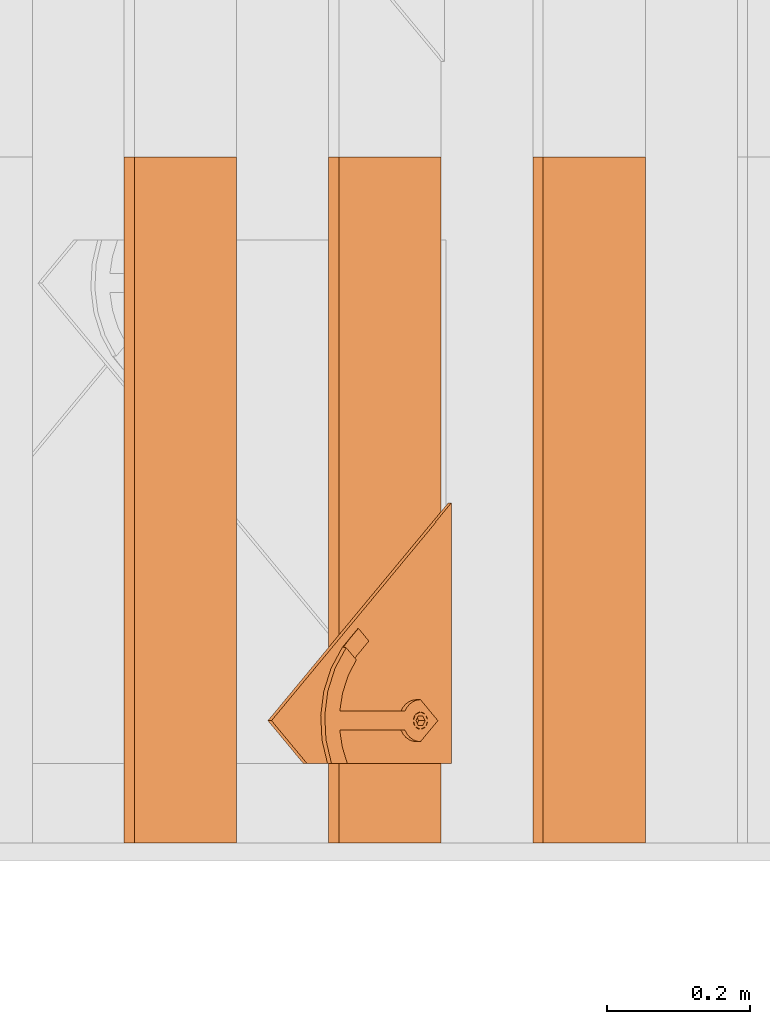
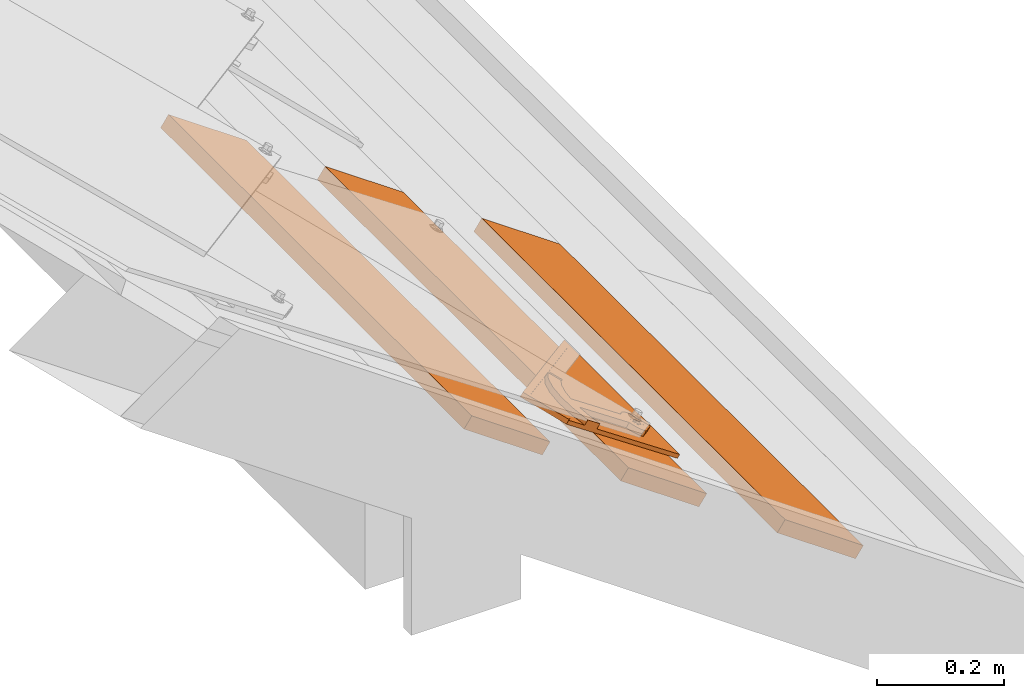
# One storey, part 126 of 151: 4 proxies, 1 element without a shape of its own.
"""IFC2X3 building model written with IfcOpenShell, lengths in millimetres."""

from ifc_helpers import new_model, entity, si_unit, converted_unit, derived_unit, direction, frame, frame_2d, origin, place, context, subcontext, project, spatial, rectangle, extrude, faceted_brep, source, transform, mapped, material, material_list, type_object, type_shapes, element, aggregate, save


model = new_model("IFC2X3")

# Units and contexts
model_context = context("Model", 3, precision=0.01, world=origin(), true_north=direction((6.12303176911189e-17, 1.0)))
body_context = subcontext(model_context, "Body", "Model", "MODEL_VIEW")
ifc_project = project(units=[si_unit("LENGTHUNIT", "METRE", prefix="MILLI"), si_unit("AREAUNIT", "SQUARE_METRE"), si_unit("VOLUMEUNIT", "CUBIC_METRE"), converted_unit("PLANEANGLEUNIT", "DEGREE", entity("IfcRatioMeasure", 0.0174532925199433), si_unit("PLANEANGLEUNIT", "RADIAN"), dimensions=[0, 0, 0, 0, 0, 0, 0]), si_unit("MASSUNIT", "GRAM", prefix="KILO"), derived_unit("MASSDENSITYUNIT", [(si_unit("MASSUNIT", "GRAM", prefix="KILO"), 1), (si_unit("LENGTHUNIT", "METRE"), -3)]), si_unit("TIMEUNIT", "SECOND"), si_unit("FREQUENCYUNIT", "HERTZ"), si_unit("THERMODYNAMICTEMPERATUREUNIT", "DEGREE_CELSIUS"), derived_unit("THERMALTRANSMITTANCEUNIT", [(si_unit("MASSUNIT", "GRAM", prefix="KILO"), 1), (si_unit("THERMODYNAMICTEMPERATUREUNIT", "KELVIN"), -1), (si_unit("TIMEUNIT", "SECOND"), -3)]), derived_unit("VOLUMETRICFLOWRATEUNIT", [(si_unit("LENGTHUNIT", "METRE"), 3), (si_unit("TIMEUNIT", "SECOND"), -1)]), si_unit("ELECTRICCURRENTUNIT", "AMPERE"), si_unit("ELECTRICVOLTAGEUNIT", "VOLT"), si_unit("POWERUNIT", "WATT"), si_unit("FORCEUNIT", "NEWTON", prefix="KILO"), si_unit("ILLUMINANCEUNIT", "LUX"), si_unit("LUMINOUSFLUXUNIT", "LUMEN"), si_unit("LUMINOUSINTENSITYUNIT", "CANDELA"), derived_unit("USERDEFINED", [(si_unit("MASSUNIT", "GRAM", prefix="KILO"), -1), (si_unit("LENGTHUNIT", "METRE"), -2), (si_unit("TIMEUNIT", "SECOND"), 3), (si_unit("LUMINOUSFLUXUNIT", "LUMEN"), 1)]), derived_unit("LINEARVELOCITYUNIT", [(si_unit("LENGTHUNIT", "METRE"), 1), (si_unit("TIMEUNIT", "SECOND"), -1)]), si_unit("PRESSUREUNIT", "PASCAL"), derived_unit("USERDEFINED", [(si_unit("LENGTHUNIT", "METRE"), -2), (si_unit("MASSUNIT", "GRAM", prefix="KILO"), 1), (si_unit("TIMEUNIT", "SECOND"), -2)])], contexts=[model_context])

# Site, building, storey
site_placement = place(None, origin())
site = spatial("IfcSite", under=ifc_project, at=site_placement, Name="Default", CompositionType="ELEMENT")
building_placement = place(site_placement, origin())
building = spatial("IfcBuilding", under=site, at=building_placement, CompositionType="ELEMENT")
storey_placement = place(building_placement, origin())
storey = spatial("IfcBuildingStorey", under=building, at=storey_placement, Name="Level 1", CompositionType="ELEMENT", Elevation=0.0)

# Assembly, proxies
assembly_placement = place(storey_placement, origin())
assembly = element("IfcElementAssembly", 1, at=assembly_placement, inside=storey, Name="Structural Framing Assembly:Roof Construction Assembly", ObjectType="Structural Framing Assembly:Roof Construction Assembly", AssemblyPlace="NOTDEFINED", PredefinedType="USERDEFINED")
ifc_material_1 = material(Name="Wood - Generic - Wood For Showcase")
building_element_proxy_type_1 = type_object("IfcBuildingElementProxyType", Name="Structural Framing 15", PredefinedType="NOTDEFINED", material=ifc_material_1)
shared_shape_1 = source(origin(), body_context, "Body", "SweptSolid", [
    extrude(rectangle(XDim=24.9999999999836, YDim=174.344679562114, at=frame_2d((3.79252185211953e-13, 7.105427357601e-14), x_axis=(1.0, 0.0))), frame((1285.3560130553, 2967.09519417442, 2760.23940055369), z_axis=(0.0, 1.0, 0.0), x_axis=(0.573576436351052, 0.0, 0.819152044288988)), (0.0, 0.0, 1.0), 958.455607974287),
])
type_shapes(building_element_proxy_type_1, [shared_shape_1])
proxy_1_placement = place(assembly_placement, frame((2913.78388459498, -9670.0, -2000.0)))
proxy_1 = element("IfcBuildingElementProxy", 2, at=proxy_1_placement, type_object=building_element_proxy_type_1, material=ifc_material_1, Name="Structural Framing 259:Structural Framing 15", ObjectType="Structural Framing 259:Structural Framing 15", context=body_context, shape_type="MappedRepresentation", body=[
    mapped(shared_shape_1, transform((0.0, 0.0, 0.0), scale=1.0)),
])
building_element_proxy_type_2 = type_object("IfcBuildingElementProxyType", Name="Structural Framing 15", PredefinedType="NOTDEFINED", material=ifc_material_1)
shared_shape_2 = source(origin(), body_context, "Body", "SweptSolid", [
    extrude(rectangle(XDim=24.9999999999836, YDim=174.344679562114, at=frame_2d((3.79252185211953e-13, 7.105427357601e-14), x_axis=(1.0, 0.0))), frame((1285.3560130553, 2967.09519417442, 2760.23940055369), z_axis=(0.0, 1.0, 0.0), x_axis=(0.573576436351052, 0.0, 0.819152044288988)), (0.0, 0.0, 1.0), 958.455607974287),
])
type_shapes(building_element_proxy_type_2, [shared_shape_2])
proxy_2_placement = place(assembly_placement, frame((3199.41348594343, -9670.0, -2200.0)))
proxy_2 = element("IfcBuildingElementProxy", 3, at=proxy_2_placement, type_object=building_element_proxy_type_2, material=ifc_material_1, Name="Structural Framing 269:Structural Framing 15", ObjectType="Structural Framing 269:Structural Framing 15", context=body_context, shape_type="MappedRepresentation", body=[
    mapped(shared_shape_2, transform((0.0, 0.0, 0.0), scale=1.0)),
])
building_element_proxy_type_3 = type_object("IfcBuildingElementProxyType", Name="Structural Framing 15", PredefinedType="NOTDEFINED", material=ifc_material_1)
shared_shape_3 = source(origin(), body_context, "Body", "SweptSolid", [
    extrude(rectangle(XDim=24.9999999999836, YDim=174.344679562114, at=frame_2d((3.79252185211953e-13, 7.105427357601e-14), x_axis=(1.0, 0.0))), frame((1285.3560130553, 2967.09519417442, 2760.23940055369), z_axis=(0.0, 1.0, 0.0), x_axis=(0.573576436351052, 0.0, 0.819152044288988)), (0.0, 0.0, 1.0), 958.455607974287),
])
type_shapes(building_element_proxy_type_3, [shared_shape_3])
proxy_3_placement = place(assembly_placement, frame((3485.04308729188, -9670.0, -2400.0)))
proxy_3 = element("IfcBuildingElementProxy", 4, at=proxy_3_placement, type_object=building_element_proxy_type_3, material=ifc_material_1, Name="Structural Framing 279:Structural Framing 15", ObjectType="Structural Framing 279:Structural Framing 15", context=body_context, shape_type="MappedRepresentation", body=[
    mapped(shared_shape_3, transform((0.0, 0.0, 0.0), scale=1.0)),
])
aggregate(assembly, [proxy_1, proxy_2, proxy_3])

# Proxy
ifc_material_2 = material(Name="Rubber - Sunstyle - Black")
ifc_material_3 = material(Name="Glass - Sunstyle - Tainted Black")
ifc_material_list_1 = material_list([ifc_material_2, ifc_material_3])
ifc_material_list_2 = material_list([ifc_material_2, ifc_material_3])
building_element_proxy_type_4 = type_object("IfcBuildingElementProxyType", Name="Corner Bottom Small Left - Black", PredefinedType="NOTDEFINED", material=ifc_material_list_2)
shared_shape_4 = source(origin(), body_context, "Body", "Brep", [
    faceted_brep([(330.847757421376, 18.4932261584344, 12.2894055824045), (339.332443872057, 26.9779126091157, 12.1473081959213), (339.332443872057, 27.0030303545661, 13.6470978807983), (330.847757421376, 18.5183439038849, 13.7891952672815), (61.6993486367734, 287.566165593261, 7.7831033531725), (10.0799586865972, 235.961249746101, 8.64735729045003), (1.59527223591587, 244.445936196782, 8.50525990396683), (61.6993486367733, 304.533159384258, 7.49894842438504), (61.6993486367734, 304.558277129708, 8.9987381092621), (1.59527223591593, 244.471053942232, 10.0050495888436), (10.0799586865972, 235.986367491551, 10.147146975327), (61.6993486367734, 287.591283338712, 9.2828930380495)], [[[0, 1, 2, 3]], [[1, 0, 4, 5, 6, 7]], [[2, 1, 7, 8]], [[3, 2, 8, 9, 10, 11]], [[0, 3, 11, 4]], [[5, 10, 9, 6]], [[8, 7, 6, 9]], [[4, 11, 10, 5]]]),
    faceted_brep([(61.6990261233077, 46.946835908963, 21.8142807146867), (61.6990261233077, 51.4462045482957, 21.7389274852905), (53.0953219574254, 50.5101071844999, 21.7546047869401), (70.3027302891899, 50.5101071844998, 21.7546047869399), (68.3392547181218, 55.2794047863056, 21.6747309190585), (73.8665012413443, 59.1126050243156, 21.6105343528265), (68.3392547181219, 62.9458052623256, 21.5463377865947), (70.30273028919, 67.7151028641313, 21.4664639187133), (61.6990261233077, 66.7790055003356, 21.4821412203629), (61.6990261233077, 71.2783741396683, 21.4067879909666), (53.0953219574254, 67.7151028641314, 21.4664639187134), (55.0587975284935, 62.9458052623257, 21.5463377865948), (49.5315510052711, 59.1126050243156, 21.6105343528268), (55.0587975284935, 55.2794047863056, 21.6747309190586), (55.0587978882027, 62.6778824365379, 5.54858115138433), (61.6990261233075, 66.5110824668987, 5.48438458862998), (55.0587978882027, 55.0114823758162, 5.6769742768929), (61.6990261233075, 51.1782823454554, 5.74117083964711), (68.3392543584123, 55.0114823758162, 5.67697427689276), (68.3392543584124, 62.6778824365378, 5.5485811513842), (53.0953219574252, 50.2421845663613, 5.75684814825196), (61.6990261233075, 46.6789132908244, 5.81652407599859), (49.5315510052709, 58.844682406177, 5.61277771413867), (53.0953219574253, 67.4471802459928, 5.4687072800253), (61.6990261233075, 71.0104515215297, 5.4090313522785), (70.3027302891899, 67.4471802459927, 5.46870728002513), (73.8665012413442, 58.844682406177, 5.61277771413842), (70.3027302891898, 50.2421845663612, 5.75684814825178)], [[[0, 1, 2]], [[1, 0, 3]], [[3, 4, 1]], [[4, 3, 5]], [[6, 4, 5]], [[5, 7, 6]], [[7, 8, 6]], [[8, 7, 9]], [[8, 9, 10]], [[10, 11, 8]], [[12, 11, 10]], [[2, 13, 12]], [[12, 13, 11]], [[13, 2, 1]], [[8, 11, 14, 15]], [[11, 13, 16, 14]], [[13, 1, 17, 16]], [[1, 4, 18, 17]], [[4, 6, 19, 18]], [[6, 8, 15, 19]], [[20, 17, 21]], [[17, 20, 16]], [[22, 16, 20]], [[14, 16, 22]], [[23, 14, 22]], [[15, 14, 23]], [[23, 24, 15]], [[24, 25, 15]], [[19, 15, 25]], [[19, 25, 26]], [[26, 18, 19]], [[26, 27, 18]], [[17, 18, 27]], [[27, 21, 17]], [[24, 23, 10, 9]], [[10, 23, 22, 12]], [[20, 21, 0, 2]], [[20, 2, 12, 22]], [[21, 27, 3, 0]], [[3, 27, 26, 5]], [[25, 24, 9, 7]], [[25, 7, 5, 26]]]),
    faceted_brep([(1.59527223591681, 244.445936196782, 8.50525990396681), (58.5931975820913, 70.7020897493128, 11.4150370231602), (61.6990261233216, 71.1109225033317, 11.4081900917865), (55.6990261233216, 69.5034527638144, 11.4351112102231), (64.8048546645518, 70.7020897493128, 11.4150370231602), (53.213744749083, 67.596696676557, 11.4670446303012), (51.3067212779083, 65.1117637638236, 11.5086610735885), (1.5952722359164, 0.125588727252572, 12.5970178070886), (67.6990261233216, 69.5034527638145, 11.4351112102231), (61.6993486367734, 304.533159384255, 7.49894842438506), (50.1079162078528, 62.2179980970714, 11.5571244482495), (49.6990261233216, 59.1126050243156, 11.6091320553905), (50.1079162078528, 56.0072119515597, 11.6611396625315), (51.3067212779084, 53.1134462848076, 11.7096030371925), (53.2137447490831, 50.6285133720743, 11.7512194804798), (55.6990261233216, 48.7217572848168, 11.7831529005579), (58.5931975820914, 47.5231202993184, 11.8032270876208), (61.6990261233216, 47.1142875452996, 11.8100740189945), (64.8048546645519, 47.5231202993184, 11.8032270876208), (67.6990261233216, 48.7217572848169, 11.7831529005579), (366.192299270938, 0.125588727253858, 12.5970178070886), (72.0913309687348, 65.1117637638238, 11.5086610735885), (73.2901360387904, 62.2179980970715, 11.5571244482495), (73.6990261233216, 59.1126050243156, 11.6091320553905), (70.1843074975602, 50.6285133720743, 11.7512194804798), (72.0913309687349, 53.1134462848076, 11.7096030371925), (73.2901360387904, 56.0072119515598, 11.6611396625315), (70.1843074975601, 67.596696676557, 11.4670446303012), (1.5952722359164, 0.0, 5.09806938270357), (55.6990261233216, 48.5961685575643, 4.2842044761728), (58.5931975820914, 47.3975315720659, 4.30427866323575), (53.2137447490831, 50.5029246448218, 4.25227105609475), (61.6990261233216, 46.9886988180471, 4.3111255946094), (51.3067212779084, 52.9878575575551, 4.21065461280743), (50.1079162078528, 55.8816232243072, 4.16219123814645), (49.6990261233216, 58.9870162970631, 4.11018363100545), (50.1079162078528, 62.0924093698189, 4.05817602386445), (64.8048546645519, 47.3975315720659, 4.30427866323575), (67.6990261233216, 48.5961685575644, 4.2842044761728), (366.192299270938, 0.0, 5.09806938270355), (51.3067212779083, 64.9861750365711, 4.00971264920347), (1.59527223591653, 244.320347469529, 1.00631147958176), (53.213744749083, 67.4711079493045, 3.96809620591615), (55.6990261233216, 69.3778640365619, 3.93616278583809), (58.5931975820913, 70.5765010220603, 3.91608859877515), (61.6990261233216, 70.9853337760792, 3.90924166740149), (64.8048546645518, 70.5765010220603, 3.91608859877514), (67.6990261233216, 69.377864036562, 3.93616278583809), (61.6993486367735, 304.407570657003, 0.0), (72.0913309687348, 64.9861750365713, 4.00971264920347), (70.1843074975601, 67.4711079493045, 3.96809620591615), (70.1843074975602, 50.5029246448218, 4.25227105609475), (72.0913309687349, 52.9878575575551, 4.21065461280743), (73.2901360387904, 55.8816232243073, 4.16219123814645), (73.6990261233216, 58.9870162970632, 4.11018363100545), (73.2901360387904, 62.092409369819, 4.05817602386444)], [[[0, 1, 2]], [[1, 0, 3]], [[0, 2, 4]], [[5, 3, 0]], [[6, 5, 0]], [[6, 0, 7]], [[8, 0, 4]], [[0, 8, 9]], [[7, 10, 6]], [[11, 10, 7]], [[12, 11, 7]], [[13, 12, 7]], [[7, 14, 13]], [[14, 7, 15]], [[16, 15, 7]], [[7, 17, 16]], [[17, 7, 18]], [[19, 18, 7]], [[20, 19, 7]], [[9, 21, 20]], [[20, 21, 22]], [[20, 22, 23]], [[19, 20, 24]], [[25, 24, 20]], [[26, 25, 20]], [[26, 20, 23]], [[9, 8, 27]], [[27, 21, 9]], [[28, 29, 30]], [[29, 28, 31]], [[28, 30, 32]], [[33, 31, 28]], [[34, 33, 28]], [[35, 34, 28]], [[28, 36, 35]], [[37, 28, 32]], [[37, 38, 28]], [[28, 38, 39]], [[36, 28, 40]], [[28, 41, 40]], [[42, 40, 41]], [[41, 43, 42]], [[43, 41, 44]], [[45, 44, 41]], [[41, 46, 45]], [[41, 47, 46]], [[47, 41, 48]], [[49, 48, 39]], [[50, 47, 48]], [[48, 49, 50]], [[38, 51, 39]], [[51, 52, 39]], [[52, 53, 39]], [[39, 53, 54]], [[55, 39, 54]], [[49, 39, 55]], [[11, 35, 36, 10]], [[10, 36, 40, 6]], [[3, 5, 42, 43]], [[40, 42, 5, 6]], [[1, 3, 43, 44]], [[45, 2, 1, 44]], [[4, 46, 47, 8]], [[8, 47, 50, 27]], [[22, 21, 49, 55]], [[50, 49, 21, 27]], [[23, 22, 55, 54]], [[4, 2, 45, 46]], [[23, 54, 53, 26]], [[26, 53, 52, 25]], [[19, 24, 51, 38]], [[52, 51, 24, 25]], [[18, 19, 38, 37]], [[32, 17, 18, 37]], [[16, 30, 29, 15]], [[15, 29, 31, 14]], [[12, 13, 33, 34]], [[31, 33, 13, 14]], [[11, 12, 34, 35]], [[16, 17, 32, 30]], [[0, 9, 48, 41]], [[7, 0, 41, 28]], [[20, 7, 28, 39]], [[9, 20, 39, 48]]]),
    faceted_brep([(1.59527223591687, 209.239382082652, 19.0962843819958), (1.59527223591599, 182.513149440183, 19.5438822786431), (24.4390403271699, 190.969673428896, 19.4022565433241), (34.6448586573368, 218.551914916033, 18.9403226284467), (48.3990261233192, 195.36105911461, 19.3287117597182), (68.9162632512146, 220.671424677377, 18.9048261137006), (74.999026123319, 195.361059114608, 19.3287117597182), (74.99902612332, 85.4841763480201, 21.1688761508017), (48.3990261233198, 85.4841763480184, 21.1688761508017), (61.6990261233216, 71.2783741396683, 21.4067879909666), (58.5931975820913, 70.8695413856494, 21.4136349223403), (55.6990261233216, 69.670904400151, 21.4337091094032), (42.9949199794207, 81.9461281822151, 21.2281296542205), (53.213744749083, 67.7641483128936, 21.4656425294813), (38.4943757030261, 77.3131226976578, 21.3057209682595), (51.3067212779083, 65.2792154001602, 21.5072589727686), (35.1148065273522, 71.8089720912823, 21.397901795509), (50.1079162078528, 62.385449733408, 21.5557223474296), (33.0194733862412, 65.6995720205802, 21.5002190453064), (49.6990261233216, 59.2800566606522, 21.6077299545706), (32.3095980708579, 59.2800566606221, 21.6077299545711), (50.1079162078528, 56.1746635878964, 21.6597375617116), (51.3067212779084, 53.2808979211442, 21.7082009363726), (53.2137447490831, 50.7959650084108, 21.7498173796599), (61.6990261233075, 29.8947493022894, 22.0998607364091), (55.6990261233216, 48.8892089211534, 21.7817507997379), (58.5931975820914, 47.690571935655, 21.8018249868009), (61.6990261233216, 47.2817391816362, 21.8086719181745), (64.8048546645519, 47.690571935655, 21.8018249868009), (67.6990261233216, 48.8892089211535, 21.7817507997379), (70.1843074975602, 50.7959650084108, 21.7498173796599), (91.0884541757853, 59.2800566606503, 21.6077299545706), (72.0913309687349, 53.2808979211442, 21.7082009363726), (73.2901360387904, 56.1746635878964, 21.6597375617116), (73.6990261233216, 59.2800566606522, 21.6077299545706), (90.3785788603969, 65.699572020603, 21.500219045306), (73.2901360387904, 62.3854497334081, 21.5557223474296), (88.2832457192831, 71.8089720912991, 21.3979017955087), (72.0913309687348, 65.2792154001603, 21.5072589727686), (84.9036765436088, 77.3131226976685, 21.3057209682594), (70.1843074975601, 67.7641483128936, 21.4656425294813), (80.4031322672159, 81.9461281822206, 21.2281296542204), (67.6990261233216, 69.6709044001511, 21.4337091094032), (64.8048546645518, 70.8695413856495, 21.4136349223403), (102.861723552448, 215.50219023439, 18.9913979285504), (100.468768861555, 190.546178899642, 19.4093490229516), (134.948197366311, 203.277664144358, 19.1961283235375), (124.623359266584, 181.142545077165, 19.5668364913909), (146.643422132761, 167.469148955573, 19.7958318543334), (163.72659789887, 184.549929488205, 19.5097712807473), (51.3067212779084, 53.1134462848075, 11.7096030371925), (32.3095980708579, 59.1126050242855, 11.609132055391), (50.1079162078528, 56.0072119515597, 11.6611396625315), (53.2137447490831, 50.6285133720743, 11.7512194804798), (61.6990261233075, 29.7272976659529, 12.1012628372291), (55.6990261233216, 48.7217572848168, 11.7831529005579), (58.5931975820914, 47.5231202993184, 11.8032270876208), (61.6990261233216, 47.1142875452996, 11.8100740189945), (64.8048546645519, 47.5231202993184, 11.8032270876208), (67.6990261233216, 48.7217572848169, 11.7831529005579), (70.1843074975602, 50.6285133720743, 11.7512194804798), (91.0884541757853, 59.1126050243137, 11.6091320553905), (72.0913309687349, 53.1134462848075, 11.7096030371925), (73.2901360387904, 56.0072119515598, 11.6611396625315), (73.6990261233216, 59.1126050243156, 11.6091320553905), (90.3785788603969, 65.5321203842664, 11.5016211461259), (73.2901360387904, 62.2179980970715, 11.5571244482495), (88.2832457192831, 71.6415204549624, 11.3993038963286), (72.0913309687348, 65.1117637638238, 11.5086610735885), (84.9036765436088, 77.1456710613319, 11.3071230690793), (70.1843074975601, 67.596696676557, 11.4670446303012), (80.4031322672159, 81.778676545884, 11.2295317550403), (67.6990261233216, 69.5034527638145, 11.4351112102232), (74.99902612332, 85.3167247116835, 11.1702782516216), (64.8048546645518, 70.7020897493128, 11.4150370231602), (61.6990261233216, 71.1109225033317, 11.4081900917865), (48.39902612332, 85.3167247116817, 11.1702782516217), (58.5931975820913, 70.7020897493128, 11.4150370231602), (55.6990261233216, 69.5034527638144, 11.4351112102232), (42.9949199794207, 81.7786765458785, 11.2295317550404), (53.213744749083, 67.596696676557, 11.4670446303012), (38.4943757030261, 77.1456710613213, 11.3071230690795), (51.3067212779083, 65.1117637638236, 11.5086610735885), (35.1148065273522, 71.6415204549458, 11.3993038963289), (50.1079162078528, 62.2179980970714, 11.5571244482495), (33.0194733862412, 65.5321203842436, 11.5016211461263), (49.6990261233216, 59.1126050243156, 11.6091320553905), (48.3990261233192, 195.193607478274, 9.33011386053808), (74.99902612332, 195.193607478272, 9.33011386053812), (68.9162632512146, 220.50397304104, 8.90622821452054), (34.6448586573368, 218.384463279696, 8.94172472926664), (24.4390403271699, 190.802221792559, 9.40365864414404), (1.59527223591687, 209.071930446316, 9.09768648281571), (1.59527223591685, 182.345697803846, 9.545284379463), (102.861723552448, 215.334738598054, 8.99280002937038), (100.468768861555, 190.378727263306, 9.4107511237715), (134.948197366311, 203.110212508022, 9.19753042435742), (124.623359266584, 180.975093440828, 9.5682385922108), (146.643422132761, 167.301697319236, 9.79723395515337), (163.72659789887, 184.382477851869, 9.51117338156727), (169.978999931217, 179.020830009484, 9.60096764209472), (175.949995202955, 173.347554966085, 9.69598088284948), (172.968069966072, 140.980740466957, 10.2380444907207), (190.645739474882, 158.655931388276, 9.94202902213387), (190.645739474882, 158.69779429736, 12.4416784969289), (172.968069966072, 141.022603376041, 12.7376939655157), (163.72659789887, 184.424340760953, 12.0108228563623), (146.643422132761, 167.34356022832, 12.2968834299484), (175.949995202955, 173.38941787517, 12.1956303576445), (169.978999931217, 179.062692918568, 12.1006171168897)], [[[0, 1, 2]], [[0, 2, 3]], [[2, 4, 3]], [[3, 4, 5]], [[5, 4, 6]], [[7, 6, 4]], [[7, 4, 8]], [[9, 7, 8]], [[9, 8, 10]], [[10, 8, 11]], [[12, 11, 8]], [[11, 12, 13]], [[14, 13, 12]], [[13, 14, 15]], [[15, 14, 16]], [[17, 15, 16]], [[18, 17, 16]], [[18, 19, 17]], [[19, 18, 20]], [[20, 21, 19]], [[20, 22, 21]], [[22, 20, 23]], [[23, 20, 24]], [[24, 25, 23]], [[26, 25, 24]], [[24, 27, 26]], [[28, 27, 24]], [[28, 24, 29]], [[30, 29, 24]], [[30, 24, 31]], [[31, 32, 30]], [[33, 32, 31]], [[31, 34, 33]], [[35, 34, 31]], [[34, 35, 36]], [[36, 35, 37]], [[36, 37, 38]], [[38, 37, 39]], [[39, 40, 38]], [[39, 41, 40]], [[7, 42, 41]], [[40, 41, 42]], [[42, 7, 43]], [[43, 7, 9]], [[44, 5, 6]], [[44, 6, 45]], [[45, 46, 44]], [[46, 45, 47]], [[47, 48, 46]], [[49, 46, 48]], [[50, 51, 52]], [[51, 50, 53]], [[51, 53, 54]], [[54, 53, 55]], [[55, 56, 54]], [[57, 54, 56]], [[54, 57, 58]], [[54, 58, 59]], [[59, 60, 54]], [[54, 60, 61]], [[61, 60, 62]], [[62, 63, 61]], [[64, 61, 63]], [[61, 64, 65]], [[66, 65, 64]], [[67, 65, 66]], [[67, 66, 68]], [[67, 68, 69]], [[69, 68, 70]], [[71, 69, 70]], [[70, 72, 71]], [[73, 71, 72]], [[74, 73, 72]], [[73, 74, 75]], [[76, 73, 75]], [[75, 77, 76]], [[76, 77, 78]], [[79, 76, 78]], [[78, 80, 79]], [[81, 79, 80]], [[81, 80, 82]], [[82, 83, 81]], [[82, 84, 83]], [[84, 85, 83]], [[86, 85, 84]], [[52, 51, 86]], [[85, 86, 51]], [[87, 73, 76]], [[88, 73, 87]], [[88, 87, 89]], [[90, 89, 87]], [[87, 91, 90]], [[91, 92, 90]], [[93, 92, 91]], [[88, 89, 94]], [[88, 94, 95]], [[96, 95, 94]], [[96, 97, 95]], [[97, 96, 98]], [[96, 99, 98]], [[98, 99, 100]], [[98, 100, 101]], [[101, 102, 98]], [[102, 101, 103]], [[8, 4, 87, 76]], [[12, 8, 76, 79]], [[14, 12, 79, 81]], [[81, 83, 16, 14]], [[18, 16, 83, 85]], [[20, 18, 85, 51]], [[24, 20, 51, 54]], [[31, 24, 54, 61]], [[104, 105, 102, 103]], [[35, 31, 61, 65]], [[37, 35, 65, 67]], [[67, 69, 39, 37]], [[41, 39, 69, 71]], [[7, 41, 71, 73]], [[6, 7, 73, 88]], [[106, 99, 96, 46, 49]], [[46, 96, 94, 44]], [[5, 44, 94, 89]], [[3, 5, 89, 90]], [[92, 0, 3, 90]], [[19, 86, 84, 17]], [[17, 84, 82, 15]], [[11, 13, 80, 78]], [[82, 80, 13, 15]], [[10, 11, 78, 77]], [[75, 9, 10, 77]], [[43, 74, 72, 42]], [[42, 72, 70, 40]], [[36, 38, 68, 66]], [[70, 68, 38, 40]], [[34, 36, 66, 64]], [[43, 9, 75, 74]], [[34, 64, 63, 33]], [[33, 63, 62, 32]], [[29, 30, 60, 59]], [[62, 60, 30, 32]], [[28, 29, 59, 58]], [[57, 27, 28, 58]], [[26, 56, 55, 25]], [[25, 55, 53, 23]], [[21, 22, 50, 52]], [[53, 50, 22, 23]], [[19, 21, 52, 86]], [[26, 27, 57, 56]], [[49, 48, 107, 106]], [[93, 91, 2, 1]], [[87, 4, 2, 91]], [[88, 95, 45, 6]], [[95, 97, 47, 45]], [[107, 48, 47, 97, 98]], [[1, 0, 92, 93]], [[104, 108, 109, 106, 107, 105]], [[108, 104, 103, 101]], [[108, 101, 100, 109]], [[100, 99, 106, 109]], [[105, 107, 98, 102]]]),
])
type_shapes(building_element_proxy_type_4, [shared_shape_4])
proxy_4_placement = place(storey_placement, frame((4570.74492372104, -6593.78139703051, 513.473676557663), z_axis=(0.573576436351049, 0.0, 0.81915204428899), x_axis=(0.0, 1.0, 0.0)))
element("IfcBuildingElementProxy", 5, at=proxy_4_placement, inside=storey, type_object=building_element_proxy_type_4, material=ifc_material_list_1, Name="Roofing_Panels_SunStyle_Tile_Corner-Bottom-Small-Left:Corner Bottom Small Left - Black", ObjectType="Roofing_Panels_SunStyle_Tile_Corner-Bottom-Small-Left:Corner Bottom Small Left - Black", context=body_context, shape_type="MappedRepresentation", body=[
    mapped(shared_shape_4, transform((0.0, 0.0, 0.0), scale=1.0)),
])

save(model, "model.ifc")
